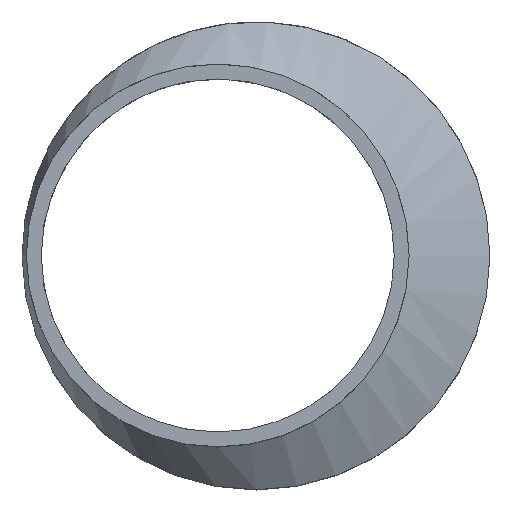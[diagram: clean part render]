
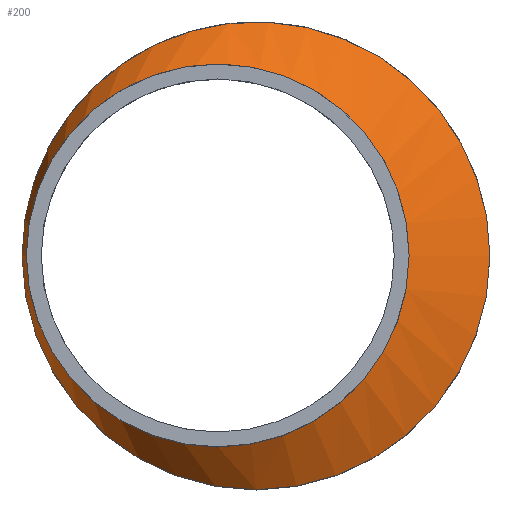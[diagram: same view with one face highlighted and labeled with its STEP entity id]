
A CAD part, top view. The second image highlights one B-rep face of the part: STEP entity #200.
In plain terms, the highlighted free-form (B-spline) face has degree [1, 2] with [2, 9] control points.
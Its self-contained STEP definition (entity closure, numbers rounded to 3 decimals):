
#15=B_SPLINE_CURVE_WITH_KNOTS($,1,(#381,#382),.UNSPECIFIED.,.F.,.F.,(2,
2),(-0.261,0.),.UNSPECIFIED.);
#17=(
BOUNDED_SURFACE()
B_SPLINE_SURFACE(1,2,((#359,#360,#361,#362,#363,#364,#365,#366,#367),(#368,
#369,#370,#371,#372,#373,#374,#375,#376)),.UNSPECIFIED.,.F.,.T.,.F.)
B_SPLINE_SURFACE_WITH_KNOTS((2,2),(3,2,2,2,3),(-1.116,0.625),
(-3.142,-1.571,0.,1.571,3.142),
 .UNSPECIFIED.)
GEOMETRIC_REPRESENTATION_ITEM()
RATIONAL_B_SPLINE_SURFACE(((1.,0.707,1.,0.707,1.,
0.707,1.,0.707,1.),(1.,0.707,1.,0.707,
1.,0.707,1.,0.707,1.)))
REPRESENTATION_ITEM($)
SURFACE()
);
#47=FACE_OUTER_BOUND($,#67,.T.);
#67=EDGE_LOOP($,(#157,#158,#159,#160,#161,#162));
#83=CIRCLE($,#221,55.);
#84=CIRCLE($,#222,55.);
#91=CIRCLE($,#231,45.);
#92=CIRCLE($,#232,45.);
#101=VERTEX_POINT($,#321);
#102=VERTEX_POINT($,#322);
#109=VERTEX_POINT($,#377);
#110=VERTEX_POINT($,#378);
#119=EDGE_CURVE($,#101,#102,#83,.T.);
#120=EDGE_CURVE($,#102,#101,#84,.T.);
#128=EDGE_CURVE($,#109,#110,#91,.T.);
#129=EDGE_CURVE($,#110,#109,#92,.T.);
#130=EDGE_CURVE($,#110,#102,#15,.T.);
#157=ORIENTED_EDGE($,*,*,#128,.F.);
#158=ORIENTED_EDGE($,*,*,#129,.F.);
#159=ORIENTED_EDGE($,*,*,#130,.T.);
#160=ORIENTED_EDGE($,*,*,#119,.F.);
#161=ORIENTED_EDGE($,*,*,#120,.F.);
#162=ORIENTED_EDGE($,*,*,#130,.F.);
#200=ADVANCED_FACE($,(#47),#17,.F.);
#221=AXIS2_PLACEMENT_3D($,#323,#266,#267);
#222=AXIS2_PLACEMENT_3D($,#324,#268,#269);
#231=AXIS2_PLACEMENT_3D($,#379,#286,#287);
#232=AXIS2_PLACEMENT_3D($,#380,#288,#289);
#266=DIRECTION('center_axis',(0.,0.,-1.));
#267=DIRECTION('ref_axis',(-1.,0.,0.));
#268=DIRECTION('center_axis',(0.,0.,-1.));
#269=DIRECTION('ref_axis',(-1.,0.,0.));
#286=DIRECTION('center_axis',(0.,0.,1.));
#287=DIRECTION('ref_axis',(-1.,0.,0.));
#288=DIRECTION('center_axis',(0.,0.,1.));
#289=DIRECTION('ref_axis',(-1.,0.,0.));
#321=CARTESIAN_POINT('',(55.,0.,37.));
#322=CARTESIAN_POINT('',(-24.075,49.451,37.));
#323=CARTESIAN_POINT('Origin',(0.,0.,37.));
#324=CARTESIAN_POINT('Origin',(0.,0.,37.));
#359=CARTESIAN_POINT('Ctrl Pts',(-4.282,87.949,2.745));
#360=CARTESIAN_POINT('Ctrl Pts',(-63.564,87.949,-31.51));
#361=CARTESIAN_POINT('Ctrl Pts',(-63.564,0.,
-31.51));
#362=CARTESIAN_POINT('Ctrl Pts',(-63.564,-87.949,-31.51));
#363=CARTESIAN_POINT('Ctrl Pts',(-4.282,-87.949,2.745));
#364=CARTESIAN_POINT('Ctrl Pts',(55.,-87.949,37.));
#365=CARTESIAN_POINT('Ctrl Pts',(55.,0.,37.));
#366=CARTESIAN_POINT('Ctrl Pts',(55.,87.949,37.));
#367=CARTESIAN_POINT('Ctrl Pts',(-4.282,87.949,2.745));
#368=CARTESIAN_POINT('Ctrl Pts',(-35.164,27.883,56.191));
#369=CARTESIAN_POINT('Ctrl Pts',(-53.959,27.883,45.331));
#370=CARTESIAN_POINT('Ctrl Pts',(-53.959,0.,
45.331));
#371=CARTESIAN_POINT('Ctrl Pts',(-53.959,-27.883,45.331));
#372=CARTESIAN_POINT('Ctrl Pts',(-35.164,-27.883,56.191));
#373=CARTESIAN_POINT('Ctrl Pts',(-16.37,-27.883,67.05));
#374=CARTESIAN_POINT('Ctrl Pts',(-16.37,0.,
67.05));
#375=CARTESIAN_POINT('Ctrl Pts',(-16.37,27.883,67.05));
#376=CARTESIAN_POINT('Ctrl Pts',(-35.164,27.883,56.191));
#377=CARTESIAN_POINT('',(36.,0.,45.));
#378=CARTESIAN_POINT('',(-28.698,40.46,45.));
#379=CARTESIAN_POINT('Origin',(-9.,0.,45.));
#380=CARTESIAN_POINT('Origin',(-9.,0.,45.));
#381=CARTESIAN_POINT('Ctrl Pts',(-28.698,40.46,45.));
#382=CARTESIAN_POINT('Ctrl Pts',(-24.075,49.451,37.));
